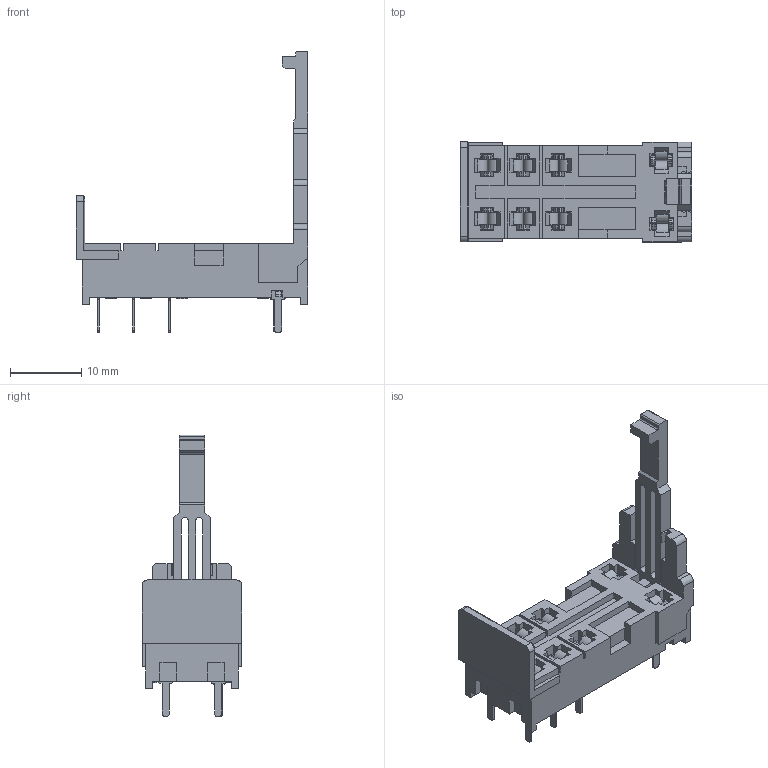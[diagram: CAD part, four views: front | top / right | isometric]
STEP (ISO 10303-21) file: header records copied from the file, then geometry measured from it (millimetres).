
FILE_DESCRIPTION(/* description */ (''),/* implementation_level */ '2;1');
FILE_NAME(/* name */ 'HT2S-61_ZP.stp',/* time_stamp */ '2018-09-13T10:37:33+08:00',/* author */ (''),/* organization */ (''),/* preprocessor_version */ 'ST-DEVELOPER v16.7',/* originating_system */ 'SIEMENS PLM Software NX 12.0',/* authorisation */ '');
FILE_SCHEMA (('AUTOMOTIVE_DESIGN { 1 0 10303 214 3 1 1 1 }'));
Length unit declared in the file: millimetre
Products named in the file (4): HT7.810.008; HT7.730.037; HT8.205.002; HT2S-61_ZP
Assembly tree (10 placements, depth 2):
  HT2S-61_ZP
    HT8.205.002
    HT7.730.037  x8
    HT7.810.008
Bounding box: 32.5 x 14 x 39.5 mm (x, y, z)
Volume: 2542.3 mm3; surface area: 5551.7 mm2
Topology: 10 solids, 10 shells, 1308 faces, 3726 edges, 2453 vertices
Faces by surface type: plane 1062, cylinder 216, extrusion 28, torus 2
Full cylindrical faces by diameter (mm): 1.65 x2
Entity records: 25406 total; most frequent: CARTESIAN_POINT 5470, ORIENTED_EDGE 4338, DIRECTION 3735, EDGE_CURVE 2169, VECTOR 1881, LINE 1853, VERTEX_POINT 1430, AXIS2_PLACEMENT_3D 927
